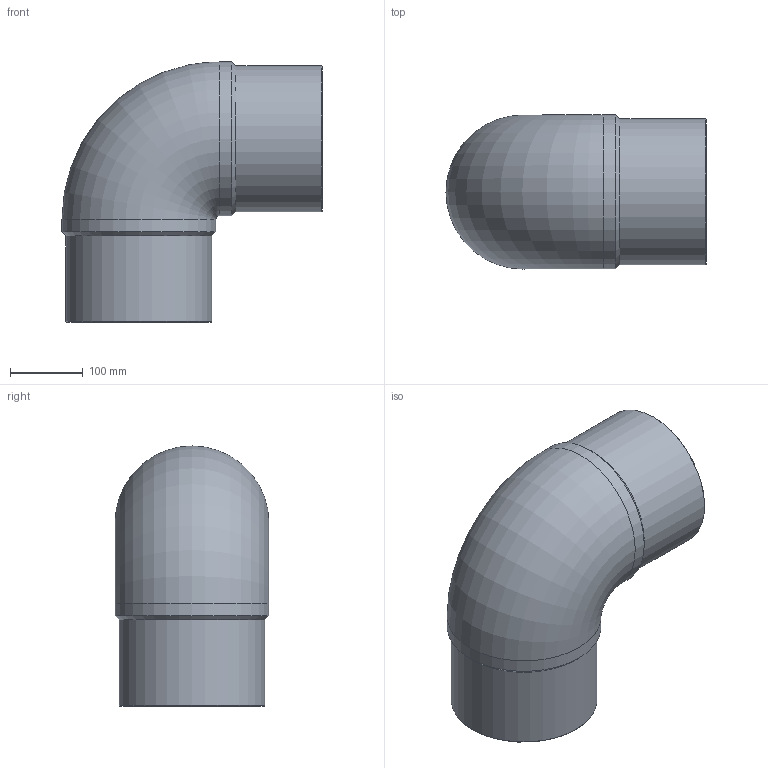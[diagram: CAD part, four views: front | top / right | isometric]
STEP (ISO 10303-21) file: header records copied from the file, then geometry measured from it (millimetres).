
FILE_DESCRIPTION(/* description */ ('Unknown'),/* implementation_level */ '2;1');
FILE_NAME(/* name */ 'G9P200G',/* time_stamp */ '2021-11-15T15:01:11+01:00',/* author */ ('Unknown'),/* organization */ ('Unknown'),/* preprocessor_version */ 'ST-DEVELOPER v16.7',/* originating_system */ 'Solid Edge',/* authorisation */ 'Unknown');
FILE_SCHEMA (('AUTOMOTIVE_DESIGN {1 0 10303 214 3 1 1}'));
Length unit declared in the file: millimetre
Products named in the file (1): G9P200G
Bounding box: 356.5 x 211 x 356.5 mm (x, y, z)
Volume: 6528846 mm3; surface area: 543188.5 mm2
Topology: 1 solids, 1 shells, 14 faces, 34 edges, 22 vertices
Faces by surface type: cylinder 6, cone 4, plane 2, torus 2
Full cylindrical faces by diameter (mm): 155.2 x2, 200 x2, 211 x2
Entity records: 378 total; most frequent: CARTESIAN_POINT 78, DIRECTION 60, ORIENTED_EDGE 38, AXIS2_PLACEMENT_3D 30, EDGE_LOOP 27, FACE_BOUND 27, EDGE_CURVE 19, VERTEX_POINT 18
